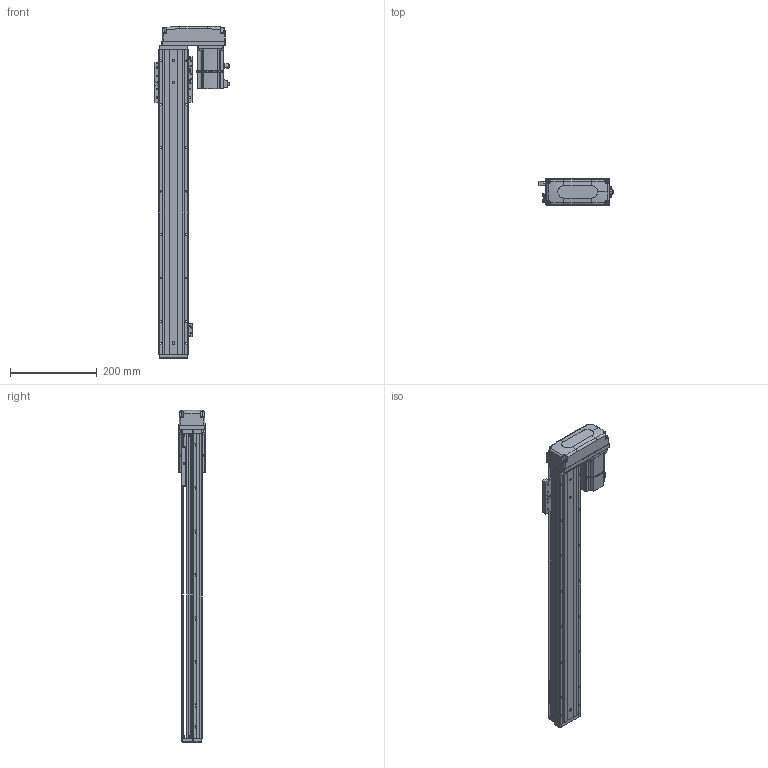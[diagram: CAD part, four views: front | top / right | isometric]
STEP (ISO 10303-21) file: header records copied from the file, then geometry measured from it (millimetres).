
FILE_DESCRIPTION (( 'STEP AP203' ), '1' );
FILE_NAME ('KTHAL60-550-BL-M20-C4L.step', '2022-12-16T02:06:57', ( '微软用户' ), ( '微软中国' ), 'SwSTEP 2.0', 'SolidWorks 2020', '' );
FILE_SCHEMA (( 'CONFIG_CONTROL_DESIGN' ));
Length unit declared in the file: millimetre
Products named in the file (17): KTHAL60-550-BL-M20-C4L; KTHA60-005; GBT77-2000M3-3; GB¨uT 70.2-M3¡Á5_M3¡Á6; GBT 70.1-M3℅6; GBT 70.3-M3℅6; CTHA60-016; EE_SX911P_R; _X2_4E0983F1_X0_200W_1; KTHA60-001_700; CTHA60-017; CTHA60-015-4_CTHA60-015-4; KTHLA60-002; CTHA60-021; GTH80-026; KTHA60-004; GBT 70.1-M4×16
Assembly tree (45 placements, depth 2):
  KTHAL60-550-BL-M20-C4L
    KTHA60-001_700
    KTHLA60-002
    KTHA60-004
    KTHA60-005
    GB¨uT 70.2-M3¡Á5_M3¡Á6  x5
    GBT 70.3-M3℅6  x4
    EE_SX911P_R  x3
    CTHA60-017  x3
    CTHA60-021  x2
    GBT 70.1-M4×16  x8
    GBT77-2000M3-3  x6
    GBT 70.1-M3℅6  x6
    CTHA60-016
    _X2_4E0983F1_X0_200W_1
    CTHA60-015-4_CTHA60-015-4
    GTH80-026
Bounding box: 172.2 x 62.42 x 764 mm (x, y, z)
Volume: 2004960.1 mm3; surface area: 432007.5 mm2
Topology: 48 solids, 48 shells, 2371 faces, 5660 edges, 3481 vertices
Faces by surface type: plane 1271, cylinder 629, cone 272, bspline 103, torus 82, sphere 14
Entity records: 46539 total; most frequent: CARTESIAN_POINT 10378, DIRECTION 7031, ORIENTED_EDGE 6944, EDGE_CURVE 3472, AXIS2_PLACEMENT_3D 2418, LINE 2195, VECTOR 2195, VERTEX_POINT 2165
